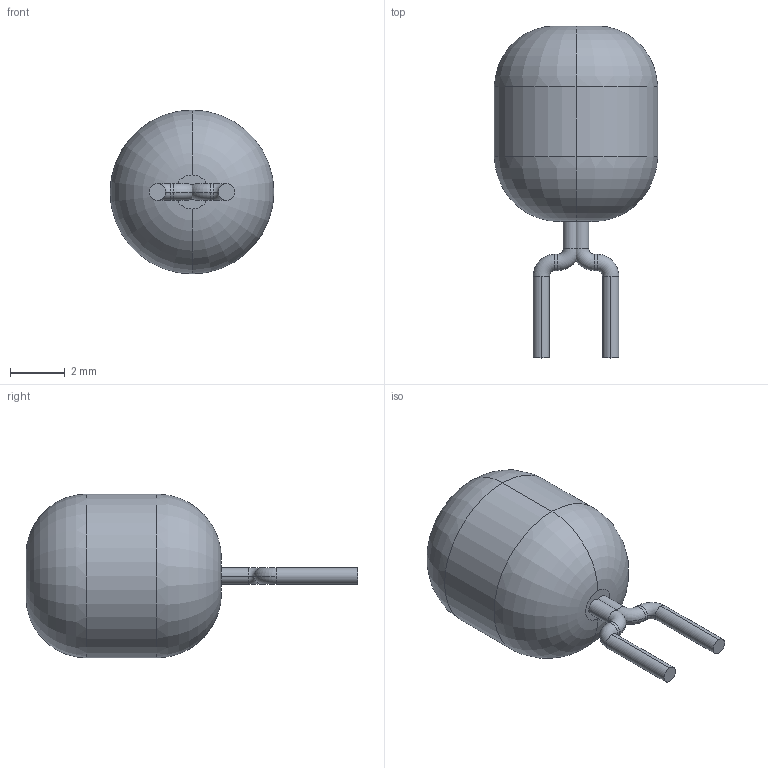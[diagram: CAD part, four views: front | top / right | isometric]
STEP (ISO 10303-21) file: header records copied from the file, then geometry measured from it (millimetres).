
FILE_DESCRIPTION (( 'STEP AP214' ), '1' );
FILE_NAME ( 'CAPPRD254W51D600H1016.STEP', '2021-10-06T06:49:12', ( '' ), ( '' ), '', '©2017 PCB Libraries, Inc.', '' );
FILE_SCHEMA (( 'AUTOMOTIVE_DESIGN' ));
Length unit declared in the file: millimetre
Products named in the file (1): CAPPRD254W51D600H1016
Bounding box: 6 x 12.16 x 6 mm (x, y, z)
Volume: 170.2 mm3; surface area: 172.1 mm2
Topology: 3 solids, 3 shells, 32 faces, 62 edges, 36 vertices
Faces by surface type: cylinder 14, torus 12, plane 6
Entity records: 970 total; most frequent: DIRECTION 176, CARTESIAN_POINT 131, ORIENTED_EDGE 124, AXIS2_PLACEMENT_3D 81, EDGE_CURVE 62, CIRCLE 48, VERTEX_POINT 36, STYLED_ITEM 36
